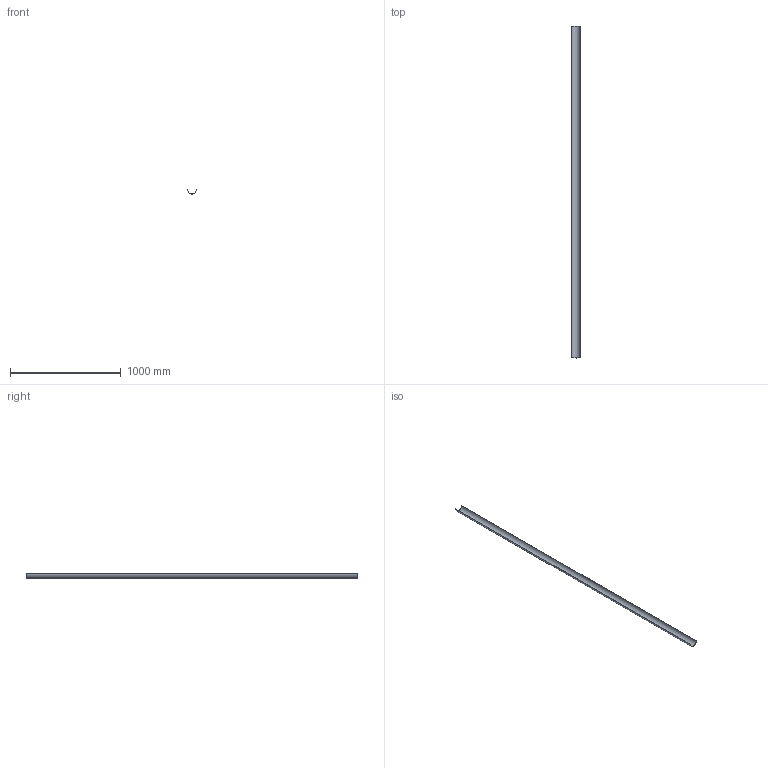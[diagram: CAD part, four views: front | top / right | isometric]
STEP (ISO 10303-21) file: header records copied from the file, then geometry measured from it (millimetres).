
FILE_DESCRIPTION(/* description */ (''),/* implementation_level */ '2;1');
FILE_NAME(/* name */ 'Z:\Geberit\Export\NewStep\365850.stp',/* time_stamp */ '2014-04-02T07:53:26+02:00',/* author */ ('bruh'),/* organization */ (''),/* preprocessor_version */ 'ST-DEVELOPER v15.2',/* originating_system */ 'Autodesk Inventor 2014',/* authorisation */ '');
FILE_SCHEMA (('AUTOMOTIVE_DESIGN { 1 0 10303 214 3 1 1 }'));
Length unit declared in the file: millimetre
Products named in the file (1): 365850
Bounding box: 76.5 x 3000 x 38.25 mm (x, y, z)
Volume: 267722.6 mm3; surface area: 718605.4 mm2
Topology: 1 solids, 1 shells, 6 faces, 12 edges, 8 vertices
Faces by surface type: plane 4, cylinder 2
Entity records: 187 total; most frequent: DIRECTION 30, CARTESIAN_POINT 27, ORIENTED_EDGE 24, EDGE_CURVE 12, AXIS2_PLACEMENT_3D 11, LINE 8, VECTOR 8, VERTEX_POINT 8
